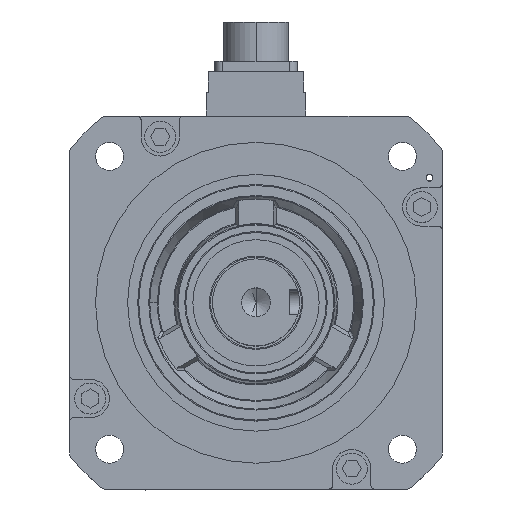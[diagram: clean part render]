
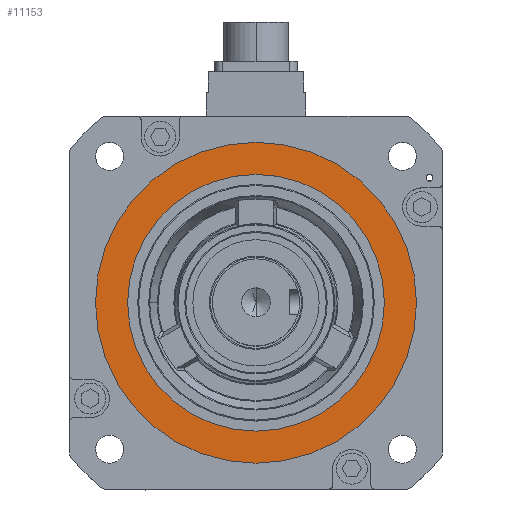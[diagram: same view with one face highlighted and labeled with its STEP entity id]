
A CAD part, top view. The second image highlights one B-rep face of the part: STEP entity #11153.
In plain terms, the highlighted planar face has unit normal (0, 0, 1) as drawn and (0, 0, -1) by its records, which use the part's own axes.
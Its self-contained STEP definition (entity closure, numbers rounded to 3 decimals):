
#454 = CARTESIAN_POINT ( 'NONE',  ( 0., 0., 3.8 ) ) ;
#3362 = ORIENTED_EDGE ( 'NONE', *, *, #51076, .T. ) ;
#5716 = CARTESIAN_POINT ( 'NONE',  ( 62., 0., 3.8 ) ) ;
#9153 = CARTESIAN_POINT ( 'NONE',  ( -62., 0., 3.8 ) ) ;
#10357 = CIRCLE ( 'NONE', #38393, 62. ) ;
#10451 = EDGE_CURVE ( 'NONE', #12154, #48541, #10357, .T. ) ;
#11153 = ADVANCED_FACE ( 'NONE', ( #39988, #31493 ), #13605, .T. ) ;
#11532 = ORIENTED_EDGE ( 'NONE', *, *, #16169, .F. ) ;
#12154 = VERTEX_POINT ( 'NONE', #9153 ) ;
#12580 = AXIS2_PLACEMENT_3D ( 'NONE', #454, #31833, #27657 ) ;
#13605 = PLANE ( 'NONE',  #43665 ) ;
#14245 = ORIENTED_EDGE ( 'NONE', *, *, #10451, .T. ) ;
#16169 = EDGE_CURVE ( 'NONE', #53036, #58212, #23161, .T. ) ;
#17740 = DIRECTION ( 'NONE',  ( 0., 0., 1. ) ) ;
#18798 = EDGE_LOOP ( 'NONE', ( #3362, #14245 ) ) ;
#19905 = CARTESIAN_POINT ( 'NONE',  ( 0., 0., 3.8 ) ) ;
#23161 = CIRCLE ( 'NONE', #12580, 77.5 ) ;
#24558 = AXIS2_PLACEMENT_3D ( 'NONE', #53453, #17740, #39842 ) ;
#27294 = CARTESIAN_POINT ( 'NONE',  ( -77.5, 0., 3.8 ) ) ;
#27657 = DIRECTION ( 'NONE',  ( 1., 0., 0. ) ) ;
#29157 = ORIENTED_EDGE ( 'NONE', *, *, #37678, .F. ) ;
#30832 = EDGE_LOOP ( 'NONE', ( #29157, #11532 ) ) ;
#31493 = FACE_OUTER_BOUND ( 'NONE', #30832, .T. ) ;
#31833 = DIRECTION ( 'NONE',  ( 0., 0., 1. ) ) ;
#32136 = DIRECTION ( 'NONE',  ( 0., 0., -1. ) ) ;
#35575 = DIRECTION ( 'NONE',  ( 0., 0., 1. ) ) ;
#36158 = CARTESIAN_POINT ( 'NONE',  ( 0., 0., 3.8 ) ) ;
#37075 = DIRECTION ( 'NONE',  ( 1., 0., 0. ) ) ;
#37678 = EDGE_CURVE ( 'NONE', #58212, #53036, #41717, .T. ) ;
#38202 = CIRCLE ( 'NONE', #24558, 62. ) ;
#38393 = AXIS2_PLACEMENT_3D ( 'NONE', #36158, #35575, #40326 ) ;
#39842 = DIRECTION ( 'NONE',  ( 1., 0., 0. ) ) ;
#39988 = FACE_BOUND ( 'NONE', #18798, .T. ) ;
#40326 = DIRECTION ( 'NONE',  ( 1., 0., 0. ) ) ;
#41717 = CIRCLE ( 'NONE', #44777, 77.5 ) ;
#43665 = AXIS2_PLACEMENT_3D ( 'NONE', #45153, #32136, #54608 ) ;
#44777 = AXIS2_PLACEMENT_3D ( 'NONE', #19905, #51253, #37075 ) ;
#45153 = CARTESIAN_POINT ( 'NONE',  ( 0., 62., 3.8 ) ) ;
#48541 = VERTEX_POINT ( 'NONE', #5716 ) ;
#51076 = EDGE_CURVE ( 'NONE', #48541, #12154, #38202, .T. ) ;
#51253 = DIRECTION ( 'NONE',  ( 0., 0., 1. ) ) ;
#53036 = VERTEX_POINT ( 'NONE', #27294 ) ;
#53453 = CARTESIAN_POINT ( 'NONE',  ( 0., 0., 3.8 ) ) ;
#53666 = CARTESIAN_POINT ( 'NONE',  ( 77.5, 0., 3.8 ) ) ;
#54608 = DIRECTION ( 'NONE',  ( -1., 0., 0. ) ) ;
#58212 = VERTEX_POINT ( 'NONE', #53666 ) ;
